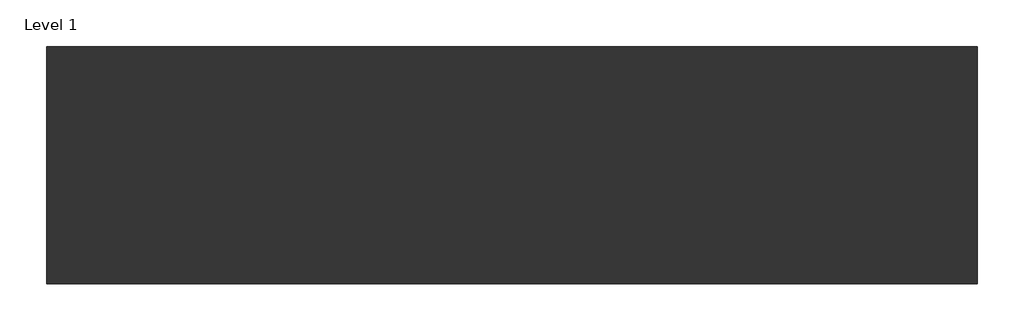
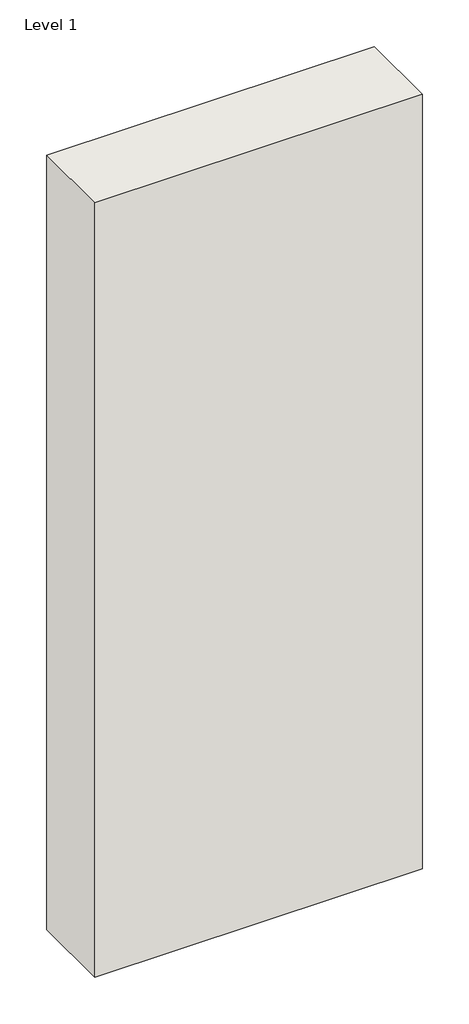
# One storey: 1 wall.
"""IFC4 building model written with IfcOpenShell, lengths in millimetres."""

import ifcopenshell
import ifcopenshell.guid

model = None  # the IFC model being written
_history = None  # IfcOwnerHistory: only IFC2X3 demands one
_inside = {}  # id of a spatial element -> (the spatial element, [elements in it])
_under = {}  # id of a project, library or spatial element -> (it, [spatial elements below it])
_declared = {}  # id of a project -> (the project, [libraries it declares])
_typed = {}  # id of a type object -> (the type object, [elements of that type])
_made_of = {}  # id of a material, layer set ... -> (it, [elements and type objects made of it])


def new_model(schema):
    """Start an empty IFC model of exactly this schema.

    Asked for "IFC4X3", IfcOpenShell would pick the latest addendum, in which some entities
    have other attributes; the version numbers below select the first issue.
    IFC2X3 requires an IfcOwnerHistory on every rooted entity: one is made here for all.
    """
    global model, _history
    if schema == "IFC4X3":
        model = ifcopenshell.file(schema_version=(4, 3, 0, 0))
    else:
        model = ifcopenshell.file(schema=schema)
    _inside.clear()
    _under.clear()
    _declared.clear()
    _typed.clear()
    _made_of.clear()
    _history = None
    if model.schema == "IFC2X3":
        org = make("IfcOrganization", Name="unknown")
        user = make(
            "IfcPersonAndOrganization",
            ThePerson=make("IfcPerson", FamilyName="unknown"),
            TheOrganization=org,
        )
        app = make(
            "IfcApplication",
            ApplicationDeveloper=org,
            Version="unknown",
            ApplicationFullName="unknown",
            ApplicationIdentifier="unknown",
        )
        _history = make(
            "IfcOwnerHistory",
            OwningUser=user,
            OwningApplication=app,
            ChangeAction="ADDED",
            CreationDate=0,
        )
    return model


def make(cls, **values):
    """One entity of the class cls with the attributes given. An attribute that is None is left unset."""
    return model.create_entity(
        cls, **{name: value for name, value in values.items() if value is not None}
    )


def rooted(cls, **values):
    """An entity with a GlobalId (a new one), such as an element, a storey or a relation."""
    return make(cls, GlobalId=ifcopenshell.guid.new(), OwnerHistory=_history, **values)


def si_unit(unit_type, name, prefix=None):
    """IfcSIUnit, for example si_unit("LENGTHUNIT", "METRE", prefix="MILLI")."""
    return make("IfcSIUnit", UnitType=unit_type, Prefix=prefix, Name=name)


def assignment(units):
    """IfcUnitAssignment: the units of a project."""
    return None if units is None else make("IfcUnitAssignment", Units=units)


def point(xyz):
    """IfcCartesianPoint."""
    return None if xyz is None else make("IfcCartesianPoint", Coordinates=xyz)


def direction(xyz):
    """IfcDirection."""
    return None if xyz is None else make("IfcDirection", DirectionRatios=xyz)


def frame(location, z_axis=None, x_axis=None):
    """IfcAxis2Placement3D, a coordinate frame: its origin and axes. An axis left out is left unset."""
    return make(
        "IfcAxis2Placement3D",
        Location=point(location),
        Axis=direction(z_axis),
        RefDirection=direction(x_axis),
    )


def origin():
    """The frame at (0, 0, 0) with its axes left unset."""
    return frame((0.0, 0.0, 0.0))


def origin_with_axes():
    """The frame at (0, 0, 0) with the z axis (0, 0, 1) and the x axis (1, 0, 0) written out."""
    return frame((0.0, 0.0, 0.0), z_axis=(0.0, 0.0, 1.0), x_axis=(1.0, 0.0, 0.0))


def place(relative_to, where):
    """IfcLocalPlacement: puts the frame where relative to a parent placement (None: the world)."""
    return make(
        "IfcLocalPlacement", PlacementRelTo=relative_to, RelativePlacement=where
    )


def context(
    kind, dimensions, precision=None, world=None, true_north=None, identifier=None
):
    """IfcGeometricRepresentationContext, for example the 3D "Model" context."""
    return make(
        "IfcGeometricRepresentationContext",
        ContextIdentifier=identifier,
        ContextType=kind,
        CoordinateSpaceDimension=dimensions,
        Precision=precision,
        WorldCoordinateSystem=world,
        TrueNorth=true_north,
    )


def project(units=None, contexts=None):
    """IfcProject with its units and contexts."""
    return rooted(
        "IfcProject",
        Name="project",
        RepresentationContexts=contexts,
        UnitsInContext=assignment(units),
    )


def spatial(cls, under=None, at=None, **own):
    """A site, building, storey or space (cls), placed at a placement, below another one or the project."""
    s = rooted(cls, ObjectPlacement=at, **own)
    if under is not None:
        _under.setdefault(under.id(), (under, []))[1].append(s)
    return s


def polyline(points):
    """IfcPolyline through the points."""
    return make("IfcPolyline", Points=[point(p) for p in points])


def outline(outer, holes=None, kind="AREA"):
    """IfcArbitraryClosedProfileDef: a profile drawn as a closed curve; with holes, ...WithVoids."""
    if holes is None:
        return make("IfcArbitraryClosedProfileDef", ProfileType=kind, OuterCurve=outer)
    return make(
        "IfcArbitraryProfileDefWithVoids",
        ProfileType=kind,
        OuterCurve=outer,
        InnerCurves=holes,
    )


def extrude(swept, where, along, depth):
    """IfcExtrudedAreaSolid: the profile swept, set in the frame where, extruded along a direction by depth."""
    return make(
        "IfcExtrudedAreaSolid",
        SweptArea=swept,
        Position=where,
        ExtrudedDirection=direction(along),
        Depth=depth,
    )


def shape(context_of_items, identifier, shape_type, items):
    """IfcShapeRepresentation: the items that make up one representation, for example the "Body"."""
    return make(
        "IfcShapeRepresentation",
        ContextOfItems=context_of_items,
        RepresentationIdentifier=identifier,
        RepresentationType=shape_type,
        Items=items,
    )


def made_of(thing, what):
    """Note that an element or type object is made of a material, layer set ...; save() writes the relation."""
    if what is not None:
        _made_of.setdefault(what.id(), (what, []))[1].append(thing)
    return thing


def element(
    cls,
    number,
    at=None,
    inside=None,
    cuts=None,
    type_object=None,
    material=None,
    context=None,
    identifier="Body",
    shape_type=None,
    held_by="IfcProductDefinitionShape",
    body=None,
    shapes=None,
    **own,
):
    """One element of the class cls, such as IfcWall. Its Tag is "e" and its number.

    at: its placement. inside: the storey or other place that contains it. cuts: it is an
    opening in that element (IfcRelVoidsElement). A single representation is given by context,
    identifier, shape_type and body (its items); several are given by shapes. held_by: the class
    of the entity that holds the representations. save() writes the other relations.
    """
    e = rooted(cls, Tag="e%d" % number, ObjectPlacement=at, **own)
    if body is not None:
        shapes = [shape(context, identifier, shape_type, body)]
    if shapes is not None:
        e.Representation = make(held_by, Representations=shapes)
    if inside is not None:
        _inside.setdefault(inside.id(), (inside, []))[1].append(e)
    if cuts is not None:
        rooted(
            "IfcRelVoidsElement", RelatingBuildingElement=cuts, RelatedOpeningElement=e
        )
    if type_object is not None:
        _typed.setdefault(type_object.id(), (type_object, []))[1].append(e)
    return made_of(e, material)


def aggregate(whole, parts):
    """IfcRelAggregates: a whole, such as a stair, and the parts it consists of."""
    return rooted("IfcRelAggregates", RelatingObject=whole, RelatedObjects=parts)


def save(model, path):
    """Write the relations noted so far, then the file.

    IfcRelAggregates (storeys below a building ...), IfcRelContainedInSpatialStructure (elements
    in a storey), IfcRelDefinesByType, IfcRelAssociatesMaterial and IfcRelDeclares: one each for
    every whole, place, type object, material and project.
    """
    for whole, parts in _under.values():
        aggregate(whole, parts)
    for where, things in _inside.values():
        rooted(
            "IfcRelContainedInSpatialStructure",
            RelatedElements=things,
            RelatingStructure=where,
        )
    for kind, things in _typed.values():
        rooted("IfcRelDefinesByType", RelatedObjects=things, RelatingType=kind)
    for what, things in _made_of.values():
        rooted("IfcRelAssociatesMaterial", RelatedObjects=things, RelatingMaterial=what)
    for by, libraries in _declared.values():
        rooted("IfcRelDeclares", RelatingContext=by, RelatedDefinitions=libraries)
    model.write(path)


model = new_model("IFC4")

# Units and contexts
model_context = context("Model", 3, world=origin())
ifc_project = project(units=[si_unit("LENGTHUNIT", "METRE", prefix="MILLI")], contexts=[model_context])

# Site, building, storey
site = spatial("IfcSite", under=ifc_project)
building = spatial("IfcBuilding", under=site)
storey = spatial("IfcBuildingStorey", under=building, Name="Level 1", Elevation=0.0)

# Wall
placement = place(None, origin())
element("IfcWall", 1, ObjectType="RIGIPS - 3.41.053 AKU - EI 30, REI 30 - 6500 - 75dB", at=placement, inside=storey, context=model_context, shape_type="SweptSolid", body=[
    extrude(outline(polyline([(1000.0, -127.5), (0.0, -127.5), (0.0, 127.5), (1000.0, 127.5), (1000.0, -127.5)])), origin_with_axes(), (0.0, 0.0, 1.0), 2500.0),
])

save(model, "model.ifc")
